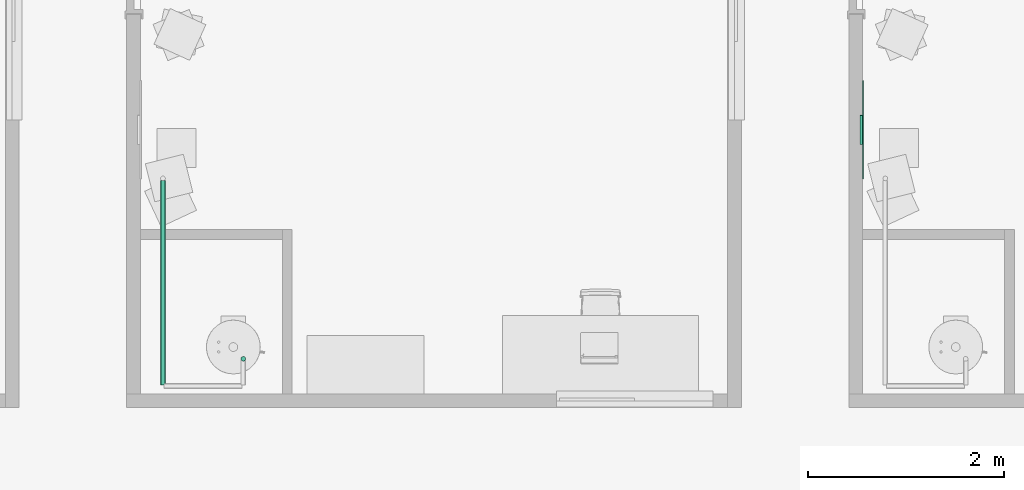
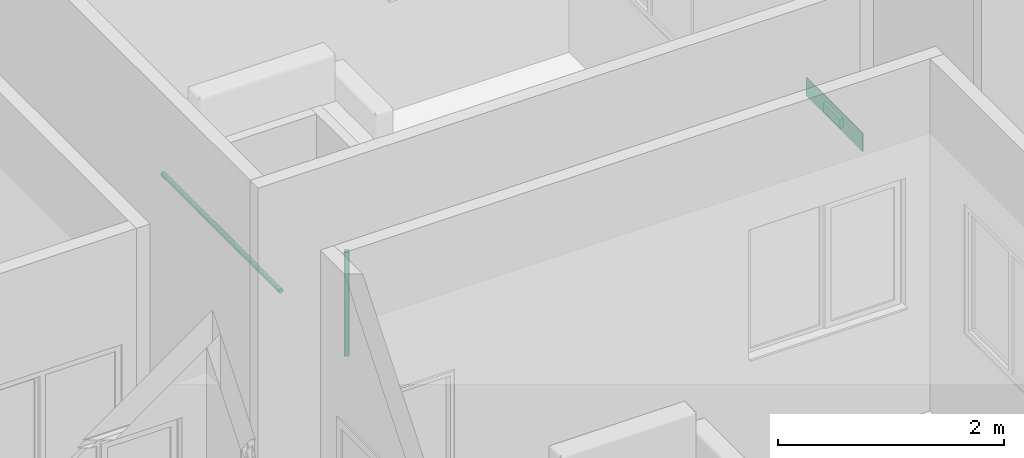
# One storey, part 25 of 72: 2 pipe segments, 1 air terminal.
"""IFC4 building model written with IfcOpenShell, lengths in centimetres."""

from ifc_helpers import new_model, entity, si_unit, converted_unit, derived_unit, direction, frame, origin, place, context, subcontext, project, spatial, arc, indexed_curve, outline, extrude, source, transform, mapped, material, constituent, constituent_set, type_object, type_shapes, element, save


model = new_model("IFC4")

# Units and contexts
model_context = context("Model", 3, precision=0.001, world=origin(), true_north=direction((6.123233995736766e-17, 1.0)))
body_context = subcontext(model_context, "Body", "Model", "MODEL_VIEW")
ifc_project = project(units=[si_unit("LENGTHUNIT", "METRE", prefix="CENTI"), si_unit("AREAUNIT", "SQUARE_METRE"), si_unit("VOLUMEUNIT", "CUBIC_METRE"), derived_unit("THERMALTRANSMITTANCEUNIT", [(si_unit("MASSUNIT", "GRAM", prefix="KILO"), 1), (si_unit("THERMODYNAMICTEMPERATUREUNIT", "KELVIN"), -1), (si_unit("TIMEUNIT", "SECOND"), -3)]), converted_unit("PLANEANGLEUNIT", "DEGREE", entity("IfcPlaneAngleMeasure", 0.017453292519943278), si_unit("PLANEANGLEUNIT", "RADIAN"), dimensions=[0, 0, 0, 0, 0, 0, 0]), derived_unit("MASSDENSITYUNIT", [(si_unit("MASSUNIT", "GRAM", prefix="KILO"), 1), (si_unit("LENGTHUNIT", "METRE"), -3)]), derived_unit("VAPORPERMEABILITYUNIT", [(si_unit("LENGTHUNIT", "METRE"), -1), (si_unit("TIMEUNIT", "SECOND"), 1)]), derived_unit("USERDEFINED", [(si_unit("MASSUNIT", "GRAM", prefix="KILO"), 1), (si_unit("TIMEUNIT", "SECOND"), -3), (si_unit("LENGTHUNIT", "METRE"), 3), (si_unit("ELECTRICCURRENTUNIT", "AMPERE"), -2)]), derived_unit("SPECIFICHEATCAPACITYUNIT", [(si_unit("THERMODYNAMICTEMPERATUREUNIT", "KELVIN"), -1), (si_unit("LENGTHUNIT", "METRE"), 2), (si_unit("TIMEUNIT", "SECOND"), -2)]), derived_unit("THERMALCONDUCTANCEUNIT", [(si_unit("MASSUNIT", "GRAM", prefix="KILO"), 1), (si_unit("THERMODYNAMICTEMPERATUREUNIT", "KELVIN"), -1), (si_unit("TIMEUNIT", "SECOND"), -3), (si_unit("LENGTHUNIT", "METRE"), 1)]), si_unit("PRESSUREUNIT", "PASCAL"), derived_unit("MODULUSOFELASTICITYUNIT", [(si_unit("MASSUNIT", "GRAM", prefix="KILO"), 1), (si_unit("LENGTHUNIT", "METRE"), -1), (si_unit("TIMEUNIT", "SECOND"), -2)]), derived_unit("THERMALEXPANSIONCOEFFICIENTUNIT", [(si_unit("THERMODYNAMICTEMPERATUREUNIT", "KELVIN"), -1)])], contexts=[model_context])

# Site, building, storey, space
site_placement = place(None, origin())
site = spatial("IfcSite", under=ifc_project, at=site_placement, Name="Default", CompositionType="ELEMENT")
building_placement = place(site_placement, origin())
building = spatial("IfcBuilding", under=site, at=building_placement, Name="IDS Escape Game Building", CompositionType="ELEMENT")
storey_placement = place(building_placement, frame((0.0, 0.0, 800.0)))
storey = spatial("IfcBuildingStorey", under=building, at=storey_placement, Name="02_Second Floor", CompositionType="ELEMENT", Elevation=800.0)
space_placement = place(storey_placement, origin())
space = spatial("IfcSpace", under=storey, at=space_placement, Name="88", CompositionType="ELEMENT", PredefinedType="NOTDEFINED")

# Air terminal
ifc_material_1 = material(Name="TB_LVC_referentievlak_00_gen_BERSnl", Category="BE Default")
ifc_constituent_1 = constituent(ifc_material_1, Name="TB_LVC_referentievlak_00_gen_BERSnl", Category="BE Default", fraction=0.00014157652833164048)
ifc_material_2 = material(Name="ARC_FME.h2_staal_00_gen_BERSnl", Category="h - metaal")
ifc_constituent_2 = constituent(ifc_material_2, Name="ARC_FME.h2_staal_00_gen_BERSnl", Category="h - metaal", fraction=0.9998584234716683)
ifc_constituent_set_1 = constituent_set(constituents=[ifc_constituent_1, ifc_constituent_2])
ifc_constituent_3 = constituent(ifc_material_1, Name="BE Referentievlak", Category="BE Default", fraction=0.00014157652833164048)
ifc_constituent_4 = constituent(ifc_material_2, Name="Terminals", Category="h - metaal", fraction=0.9998584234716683)
ifc_constituent_set_2 = constituent_set(constituents=[ifc_constituent_3, ifc_constituent_4])
air_terminal_type = type_object("IfcAirTerminalType", Name="TB_57_AIR_FB_aanzuigrooster - 1 rechthoekige aansluiting - calculated flow_gen_BERSnl:Air Terminal - Exhaust", PredefinedType="GRILLE", material=ifc_constituent_set_2)
shared_shape = source(origin(), body_context, "Body", "SweptSolid", [
    extrude(outline(indexed_curve([(-0.5, -2.0290176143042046e-15), (6.8507733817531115e-16, -0.5000000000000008), (0.5, 2.0290176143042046e-15), (-5.361679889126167e-16, 0.49999999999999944)], segments=[arc(1, 2, 3), arc(3, 4, 1)], self_intersect=False)), frame((0.0, 0.0, 0.0), z_axis=(1.7453292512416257e-05, 0.0, 1.0), x_axis=(0.0, 1.0, 0.0)), (0.0, 0.0, 1.0), 0.09999999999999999),
    extrude(outline(indexed_curve([(-14.900000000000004, -4.9), (14.900000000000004, -4.9), (14.900000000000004, 4.9), (-14.900000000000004, 4.9), (-14.900000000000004, -4.9)], self_intersect=False)), frame((-4.886921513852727e-05, 0.0, -2.7999999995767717)), (0.0, 0.0, 1.0), 2.7999999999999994),
    extrude(outline(indexed_curve([(-50.0, -10.0), (50.0, -10.0), (50.0, 10.0), (-50.0, 10.0), (-50.0, -10.0)], self_intersect=False)), frame((0.0, 0.0, 0.0), z_axis=(0.0, 0.0, 1.0), x_axis=(-1.0, 0.0, 0.0)), (0.0, 0.0, 1.0), 0.6999999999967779),
])
type_shapes(air_terminal_type, [shared_shape])
air_terminal_placement = place(space_placement, frame((2221.0, 1559.0, 24.0), z_axis=(1.0, 0.0, 0.0), x_axis=(0.0, 1.0, 0.0)))
element("IfcAirTerminal", 1, at=air_terminal_placement, inside=space, type_object=air_terminal_type, material=ifc_constituent_set_1, Name="TB_57_AIR_FB_aanzuigrooster - 1 rechthoekige aansluiting - calculated flow_gen_BERSnl:Air Terminal - Exhaust", ObjectType="TB_57_AIR_FB_aanzuigrooster - 1 rechthoekige aansluiting - calculated flow_gen_BERSnl:Air Terminal - Exhaust", PredefinedType="GRILLE", context=body_context, shape_type="MappedRepresentation", body=[
    mapped(shared_shape, transform((0.0, 0.0, 0.0), scale=1.0)),
])

# Pipe segments
pipe_segment_type = type_object("IfcPipeSegmentType", Name="Pipe Types:Piping Aluminum", PredefinedType="NOTDEFINED")
pipe_segment_1_placement = place(storey_placement, origin())
element("IfcPipeSegment", 2, at=pipe_segment_1_placement, inside=storey, type_object=pipe_segment_type, Name="Pipe Types:Piping Aluminum", ObjectType="Pipe Types:Piping Aluminum", PredefinedType="NOTDEFINED", context=body_context, shape_type="SweptSolid", body=[
    extrude(outline(indexed_curve([(2.412999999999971, 0.0), (1.7062486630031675, 1.7062486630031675), (0.0, 2.412999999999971), (-1.7062486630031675, 1.7062486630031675), (-2.412999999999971, 0.0), (-1.7062486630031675, -1.7062486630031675), (0.0, -2.412999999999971), (1.7062486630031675, -1.7062486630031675)], segments=[arc(1, 2, 3), arc(3, 4, 5), arc(5, 6, 7), arc(7, 8, 1)], self_intersect=False)), frame((1588.1500000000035, 1324.900000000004, 128.0), z_axis=(0.0, 0.0, 1.0), x_axis=(-1.0, 0.0, 0.0)), (0.0, 0.0, 1.0), 112.90000000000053),
])
pipe_segment_2_placement = place(storey_placement, origin())
element("IfcPipeSegment", 3, at=pipe_segment_2_placement, inside=storey, type_object=pipe_segment_type, Name="Pipe Types:Piping Aluminum", ObjectType="Pipe Types:Piping Aluminum", PredefinedType="NOTDEFINED", context=body_context, shape_type="SweptSolid", body=[
    extrude(outline(indexed_curve([(2.412999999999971, 0.0), (1.7062486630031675, 1.7062486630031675), (0.0, 2.412999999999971), (-1.7062486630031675, 1.7062486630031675), (-2.412999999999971, 0.0), (-1.7062486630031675, -1.7062486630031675), (0.0, -2.412999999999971), (1.7062486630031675, -1.7062486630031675)], segments=[arc(1, 2, 3), arc(3, 4, 5), arc(5, 6, 7), arc(7, 8, 1)], self_intersect=False)), frame((1506.0467168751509, 1298.3648279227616, 242.0), z_axis=(0.0, 1.0, 0.0), x_axis=(1.0, 0.0, 0.0)), (0.0, 0.0, 1.0), 208.80000000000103),
])

save(model, "model.ifc")
